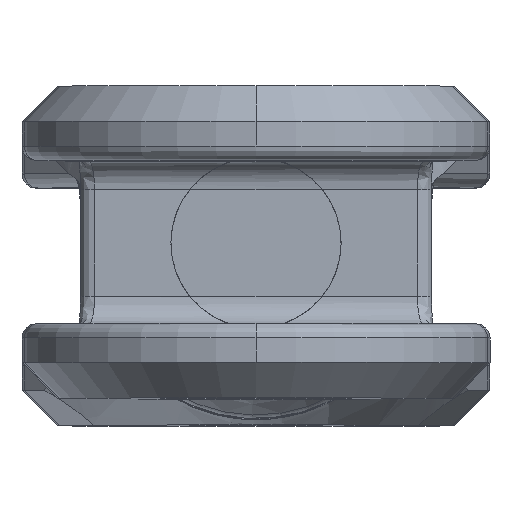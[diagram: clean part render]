
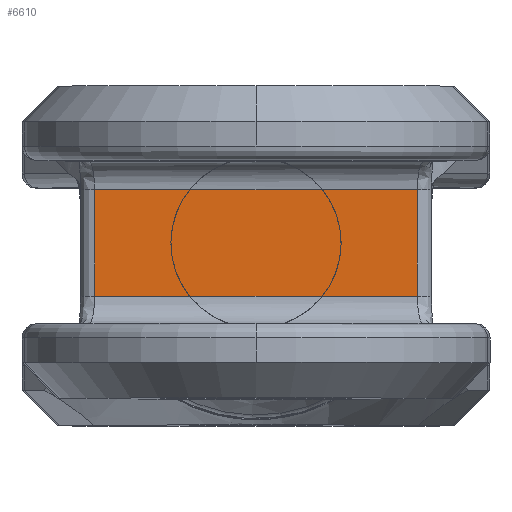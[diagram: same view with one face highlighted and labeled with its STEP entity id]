
A CAD part, top view. The second image highlights one B-rep face of the part: STEP entity #6610.
In plain terms, the highlighted planar face has unit normal (0, 0, 1) as drawn and (0, 0, -1) by its records, which use the part's own axes.
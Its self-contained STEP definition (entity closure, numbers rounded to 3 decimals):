
#384 = ORIENTED_EDGE ( 'NONE', *, *, #6121, .F. ) ;
#888 = CARTESIAN_POINT ( 'NONE',  ( -20.116, -7.5, -53. ) ) ;
#1515 = LINE ( 'NONE', #6780, #7742 ) ;
#1615 = EDGE_LOOP ( 'NONE', ( #384, #3503, #2577, #5522 ) ) ;
#1909 = CARTESIAN_POINT ( 'NONE',  ( 40.255, 7.5, -53. ) ) ;
#2091 = DIRECTION ( 'NONE',  ( 0., -1., 0. ) ) ;
#2527 = LINE ( 'NONE', #8887, #4842 ) ;
#2577 = ORIENTED_EDGE ( 'NONE', *, *, #6457, .T. ) ;
#3185 = VERTEX_POINT ( 'NONE', #9094 ) ;
#3258 = PLANE ( 'NONE',  #4236 ) ;
#3503 = ORIENTED_EDGE ( 'NONE', *, *, #4033, .T. ) ;
#3733 = VECTOR ( 'NONE', #5870, 1000. ) ;
#4033 = EDGE_CURVE ( 'NONE', #5436, #4536, #5790, .T. ) ;
#4038 = DIRECTION ( 'NONE',  ( 1., 0., 0. ) ) ;
#4236 = AXIS2_PLACEMENT_3D ( 'NONE', #888, #8674, #4038 ) ;
#4264 = VERTEX_POINT ( 'NONE', #1909 ) ;
#4470 = FACE_OUTER_BOUND ( 'NONE', #1615, .T. ) ;
#4536 = VERTEX_POINT ( 'NONE', #7359 ) ;
#4604 = EDGE_CURVE ( 'NONE', #4264, #3185, #1515, .T. ) ;
#4842 = VECTOR ( 'NONE', #9649, 1000. ) ;
#4960 = VECTOR ( 'NONE', #9285, 1000. ) ;
#5100 = CARTESIAN_POINT ( 'NONE',  ( -5.255, -7.5, -53. ) ) ;
#5436 = VERTEX_POINT ( 'NONE', #7053 ) ;
#5446 = LINE ( 'NONE', #8507, #4960 ) ;
#5522 = ORIENTED_EDGE ( 'NONE', *, *, #4604, .T. ) ;
#5790 = LINE ( 'NONE', #5100, #3733 ) ;
#5870 = DIRECTION ( 'NONE',  ( 0., 1., 0. ) ) ;
#6121 = EDGE_CURVE ( 'NONE', #5436, #3185, #2527, .T. ) ;
#6457 = EDGE_CURVE ( 'NONE', #4536, #4264, #5446, .T. ) ;
#6610 = ADVANCED_FACE ( 'NONE', ( #4470 ), #3258, .F. ) ;
#6780 = CARTESIAN_POINT ( 'NONE',  ( 40.255, -7.5, -53. ) ) ;
#7053 = CARTESIAN_POINT ( 'NONE',  ( -5.255, -7.5, -53. ) ) ;
#7359 = CARTESIAN_POINT ( 'NONE',  ( -5.255, 7.5, -53. ) ) ;
#7742 = VECTOR ( 'NONE', #2091, 1000. ) ;
#8507 = CARTESIAN_POINT ( 'NONE',  ( -20.116, 7.5, -53. ) ) ;
#8674 = DIRECTION ( 'NONE',  ( 0., 0., 1. ) ) ;
#8887 = CARTESIAN_POINT ( 'NONE',  ( -20.116, -7.5, -53. ) ) ;
#9094 = CARTESIAN_POINT ( 'NONE',  ( 40.255, -7.5, -53. ) ) ;
#9285 = DIRECTION ( 'NONE',  ( 1., 0., 0. ) ) ;
#9649 = DIRECTION ( 'NONE',  ( 1., 0., 0. ) ) ;
